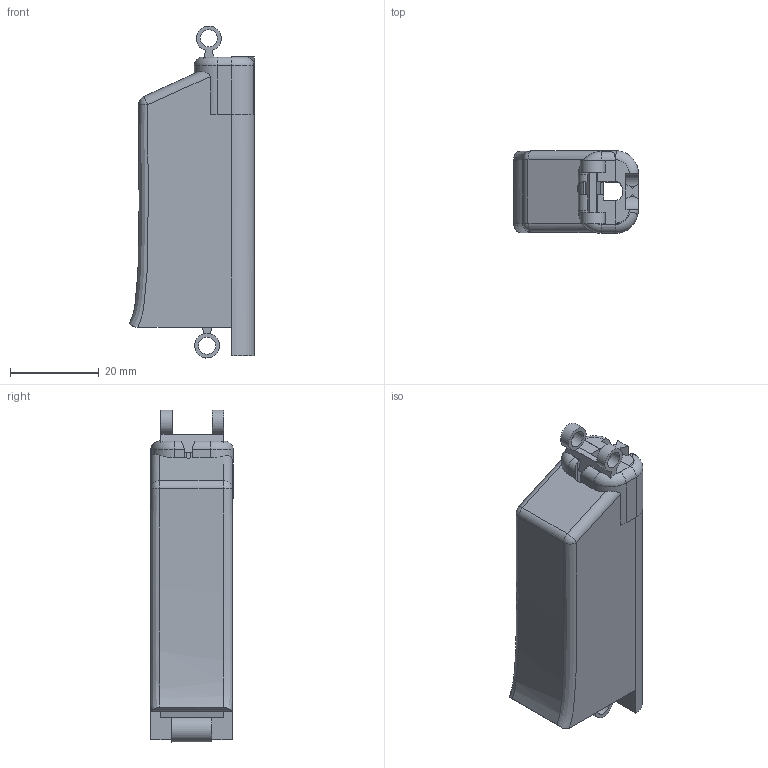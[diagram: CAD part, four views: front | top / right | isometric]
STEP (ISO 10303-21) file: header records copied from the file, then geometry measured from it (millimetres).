
FILE_DESCRIPTION(/* description */ ('STEP AP242 Edition 2','CAx-IF Rec.Pracs.---Representation and Presentation of Product Manufacturing Information (PMI)---4.0---2014-10-13','CAx-IF Rec.Pracs.---3D Tessellated Geometry---0.4---2014-09-14','2;1','CAx-IF Rec.Pracs.---User Defined Attributes---1.5---2016-08-15'),/* implementation_level */ '2;1');
FILE_NAME(/* name */ 'Main - Poi Bih',/* time_stamp */ '2026-06-25T16:15:30Z',/* author */ (''),/* organization */ (''),/* preprocessor_version */ 'ST-DEVELOPER v20',/* originating_system */ 'ONSHAPE BY PTC INC, 1.216',/* authorisation */ ' ');
FILE_SCHEMA (('AP242_MANAGED_MODEL_BASED_3D_ENGINEERING_MIM_LF { 1 0 10303 442 3 1 4 }'));
Length unit declared in the file: metre
Products named in the file (1): Poi Bih
Bounding box: 28.11 x 18.61 x 74.84 mm (x, y, z)
Volume: 25478.4 mm3; surface area: 8188.7 mm2
Topology: 1 solids, 1 shells, 99 faces, 288 edges, 184 vertices
Faces by surface type: plane 58, cylinder 28, torus 6, bspline 3, sphere 2, cone 2
Full cylindrical faces by diameter (mm): 3.865 x3
Entity records: 3446 total; most frequent: CARTESIAN_POINT 801, ORIENTED_EDGE 566, DIRECTION 534, EDGE_CURVE 283, VERTEX_POINT 184, AXIS2_PLACEMENT_3D 179, LINE 176, VECTOR 176
